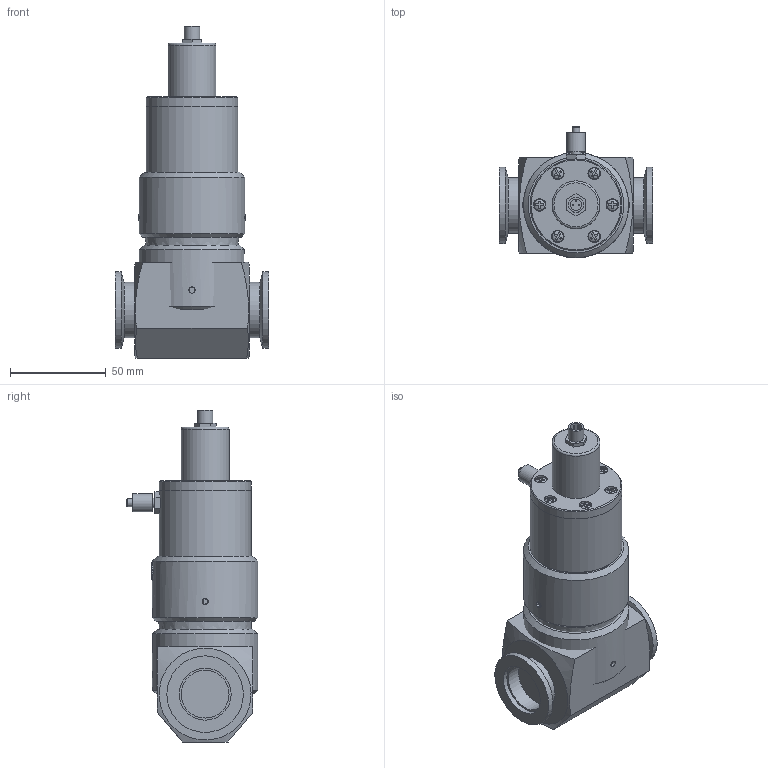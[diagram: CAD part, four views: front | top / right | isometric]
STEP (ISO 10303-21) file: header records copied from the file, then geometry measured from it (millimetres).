
FILE_DESCRIPTION( ( 'Unknown' ), '1' );
FILE_NAME( 'X:/Daten ( aktueller Bestand )/Projekte und Zeichnungen/Solid Edge/21 Eck + Durchgangsventile KF ISO-K, el.pneumatisch/Alu/Durchgangsventil/NW25/Internet/312421.stp', 'Unknown', ( 'Unknown' ), ( 'Unknown' ), 'XStep 1.0', 'Unknown', ' ' );
FILE_SCHEMA( ( 'automotive_design' ) );
Length unit declared in the file: millimetre
Products named in the file (9): Assem1; 3102-2; 3102-5; Anschluss Festo; Schraube 3x8; M3x4; 3024-2; 3104-1; 3102-6
Bounding box: 80 x 68.7 x 173.5 mm (x, y, z)
Volume: 677998.3 mm3; surface area: 136141.3 mm2
Topology: 22 solids, 22 shells, 465 faces, 1021 edges, 675 vertices
Faces by surface type: plane 267, cylinder 135, cone 54, sphere 7, torus 2
Full cylindrical faces by diameter (mm): 0.5 x6, 2 x2, 2.459 x12, 2.8 x2, 3 x10, 3.242 x4, 3.3 x12, 4 x2, 4.134 x4, 5 x4, 5.793 x7, 6 x4, 6.5 x12, 7.459 x2, 8 x2, 9.518 x2, 10 x2, 10.3 x2, 12 x2, 12.812 x2, 19 x2, 20 x2, 25 x6, 26 x2, 27.2 x4, 29 x4, 33.739 x2, 37.97 x2, 40 x4, 47.5 x2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
Entity records: 5192 total; most frequent: CARTESIAN_POINT 1298, DIRECTION 776, ORIENTED_EDGE 520, AXIS2_PLACEMENT_3D 342, EDGE_LOOP 327, EDGE_CURVE 260, FACE_OUTER_BOUND 244, VERTEX_POINT 226
